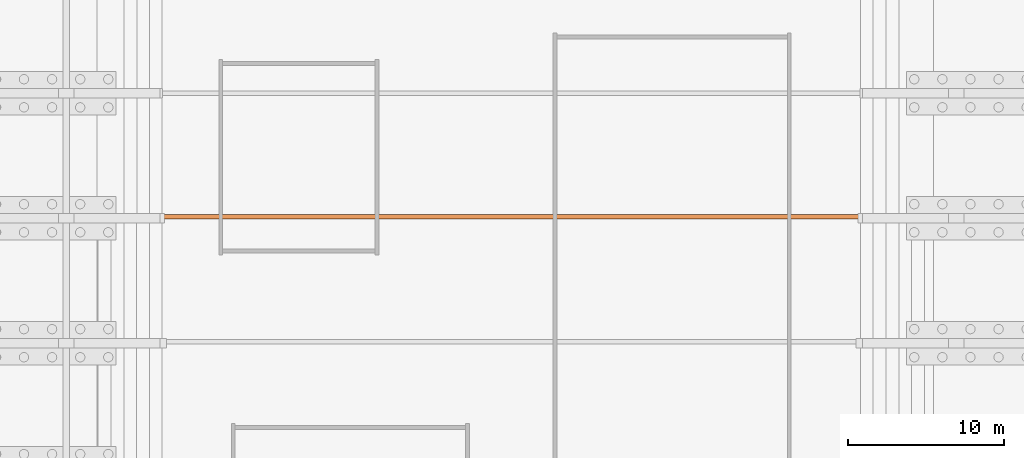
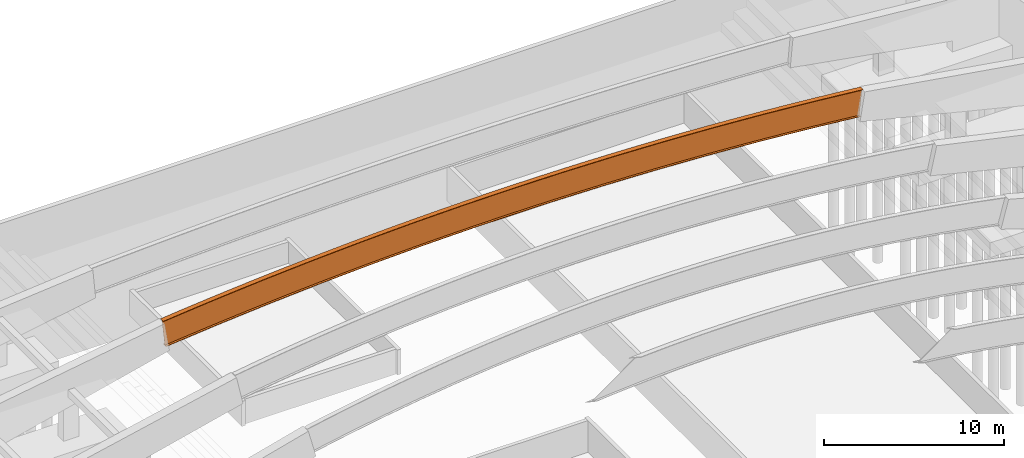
# One storey, part 9 of 10: 1 proxy.
"""IFC2X3 building model written with IfcOpenShell, lengths in millimetres."""

from ifc_helpers import new_model, si_unit, derived_unit, direction, frame, origin, place, context, subcontext, project, spatial, face_set, surface_model, source, transform, mapped, type_object, type_shapes, element, save


model = new_model("IFC2X3")

# Units and contexts
model_context = context("Model", 3, precision=0.01, world=origin(), true_north=direction((6.12303176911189e-17, 1.0)))
body_context = subcontext(model_context, "Body", "Model", "MODEL_VIEW")
ifc_project = project(units=[si_unit("LENGTHUNIT", "METRE", prefix="MILLI"), si_unit("AREAUNIT", "SQUARE_METRE"), si_unit("VOLUMEUNIT", "CUBIC_METRE"), si_unit("PLANEANGLEUNIT", "RADIAN"), si_unit("MASSUNIT", "GRAM", prefix="KILO"), derived_unit("MASSDENSITYUNIT", [(si_unit("MASSUNIT", "GRAM", prefix="KILO"), 1), (si_unit("LENGTHUNIT", "METRE"), -3)]), si_unit("TIMEUNIT", "SECOND"), si_unit("FREQUENCYUNIT", "HERTZ"), si_unit("THERMODYNAMICTEMPERATUREUNIT", "DEGREE_CELSIUS"), derived_unit("THERMALTRANSMITTANCEUNIT", [(si_unit("MASSUNIT", "GRAM", prefix="KILO"), 1), (si_unit("THERMODYNAMICTEMPERATUREUNIT", "KELVIN"), -1), (si_unit("TIMEUNIT", "SECOND"), -3)]), derived_unit("VOLUMETRICFLOWRATEUNIT", [(si_unit("LENGTHUNIT", "METRE"), 3), (si_unit("TIMEUNIT", "SECOND"), -1)]), si_unit("ELECTRICCURRENTUNIT", "AMPERE"), si_unit("ELECTRICVOLTAGEUNIT", "VOLT"), si_unit("POWERUNIT", "WATT"), si_unit("FORCEUNIT", "NEWTON", prefix="KILO"), si_unit("ILLUMINANCEUNIT", "LUX"), si_unit("LUMINOUSFLUXUNIT", "LUMEN"), si_unit("LUMINOUSINTENSITYUNIT", "CANDELA"), derived_unit("USERDEFINED", [(si_unit("MASSUNIT", "GRAM", prefix="KILO"), -1), (si_unit("LENGTHUNIT", "METRE"), -2), (si_unit("TIMEUNIT", "SECOND"), 3), (si_unit("LUMINOUSFLUXUNIT", "LUMEN"), 1)]), derived_unit("LINEARVELOCITYUNIT", [(si_unit("LENGTHUNIT", "METRE"), 1), (si_unit("TIMEUNIT", "SECOND"), -1)]), si_unit("PRESSUREUNIT", "PASCAL"), derived_unit("USERDEFINED", [(si_unit("LENGTHUNIT", "METRE"), -2), (si_unit("MASSUNIT", "GRAM", prefix="KILO"), 1), (si_unit("TIMEUNIT", "SECOND"), -2)])], contexts=[model_context])

# Site, building, storey
site_placement = place(None, origin())
site = spatial("IfcSite", under=ifc_project, at=site_placement, Name="Default", CompositionType="ELEMENT")
building_placement = place(site_placement, origin())
building = spatial("IfcBuilding", under=site, at=building_placement, CompositionType="ELEMENT")
storey_placement = place(building_placement, origin())
storey = spatial("IfcBuildingStorey", under=building, at=storey_placement, Name="Default", CompositionType="ELEMENT", Elevation=0.0)

# Proxy
building_element_proxy_type = type_object("IfcBuildingElementProxyType", Name="VIGA", PredefinedType="NOTDEFINED")
shared_shape = source(origin(), body_context, "Body", "SurfaceModel", [
    surface_model("IfcFaceBasedSurfaceModel", [(45000.0061273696, 0.0, 1790.29613184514), (44997.4137090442, 0.0, 1765.43090779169), (44997.4137090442, 140.0, 1765.43090779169), (44815.9444262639, 140.0, 24.8652240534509), (44815.9444262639, 0.0, 24.8652240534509), (44813.3520079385, 0.0, 0.0), (44813.3520079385, 300.0, 0.0), (44815.9444262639, 300.0, 24.8652240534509), (44815.9444262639, 160.0, 24.8652240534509), (44997.4137090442, 160.0, 1765.43090779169), (44997.4137090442, 300.0, 1765.43090779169), (45000.0061273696, 300.0, 1790.29613184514), (0.0, 0.0, 1790.29613184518), (0.0, 300.0, 1790.29613184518), (2.5924183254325, 300.0, 1765.43090779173), (2.5924183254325, 160.0, 1765.43090779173), (184.061701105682, 160.0, 24.8652240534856), (184.061701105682, 300.0, 24.8652240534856), (186.654119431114, 300.0, 0.0), (186.654119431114, 0.0, 0.0), (184.061701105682, 0.0, 24.8652240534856), (184.061701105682, 140.0, 24.8652240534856), (2.5924183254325, 140.0, 1765.43090779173), (2.5924183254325, 0.0, 1765.43090779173), (36979.5750216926, 0.00228845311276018, 2476.36894678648), (38585.607223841, 0.00228845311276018, 2362.96772913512), (38585.607223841, 300.002581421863, 2362.96772913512), (36979.5750216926, 300.002581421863, 2476.36894678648), (35372.7428683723, 0.00228845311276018, 2577.8496711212), (35372.7428683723, 300.002581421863, 2577.8496711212), (40190.7557589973, 0.00228845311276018, 2237.65270380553), (40190.7557589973, 300.002581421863, 2237.65270380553), (41794.9276095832, 0.00228845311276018, 2100.43055643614), (41794.9276095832, 300.002581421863, 2100.43055643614), (33765.1944797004, 0.00228845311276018, 2667.40496058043), (33765.1944797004, 300.002581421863, 2667.40496058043), (25719.9553195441, 0.00228845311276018, 2936.14437098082), (27329.7175265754, 0.00228845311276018, 2906.27875208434), (27329.7175265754, 300.002581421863, 2906.27875208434), (25719.9553195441, 300.002581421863, 2936.14437098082), (24110.0256808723, 0.00228845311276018, 2954.0642074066), (24110.0256808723, 300.002581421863, 2954.0642074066), (30548.3396701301, 0.00228845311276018, 2810.71888727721), (32157.0321750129, 0.00228845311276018, 2745.02929224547), (32157.0321750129, 300.002581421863, 2745.02929224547), (30548.3396701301, 300.002581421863, 2810.71888727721), (28939.2099826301, 0.00228845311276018, 2864.4696761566), (28939.2099826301, 300.002581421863, 2864.4696761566), (22500.0030246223, 0.00228845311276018, 2960.03768000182), (22500.0030246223, 300.002581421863, 2960.03768000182), (43398.0483615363, 300.002581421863, 1951.30913538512), (43398.0483615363, 0.00228845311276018, 1951.30913538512), (14451.6617282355, 0.00228845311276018, 2810.71888727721), (16060.8007174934, 0.00228845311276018, 2864.4696761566), (16060.8007174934, 300.002581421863, 2864.4696761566), (14451.6617282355, 300.002581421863, 2810.71888727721), (12842.9692233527, 0.00228845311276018, 2745.02929224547), (12842.9692233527, 300.002581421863, 2745.02929224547), (19280.0460788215, 0.00228845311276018, 2936.14437098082), (20889.9803683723, 0.00228845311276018, 2954.0642074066), (20889.9803683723, 300.002581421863, 2954.0642074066), (19280.0460788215, 300.002581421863, 2936.14437098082), (17670.2885226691, 0.00228845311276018, 2906.27875208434), (17670.2885226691, 300.002581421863, 2906.27875208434), (11234.8069186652, 0.00228845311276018, 2667.40496058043), (11234.8069186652, 300.002581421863, 2667.40496058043), (3205.07378878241, 0.00228845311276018, 2100.43055643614), (4809.25029024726, 0.00228845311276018, 2237.65270380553), (4809.25029024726, 300.002581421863, 2237.65270380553), (3205.07378878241, 300.002581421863, 2100.43055643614), (1601.9623385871, 0.00228845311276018, 1951.30913538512), (1601.9623385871, 300.002581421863, 1951.30913538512), (8020.43567843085, 0.00228845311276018, 2476.36894678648), (9627.26783175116, 0.00228845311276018, 2577.8496711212), (9627.26783175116, 300.002581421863, 2577.8496711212), (8020.43567843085, 300.002581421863, 2476.36894678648), (6414.3988254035, 0.00228845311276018, 2362.96772913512), (6414.3988254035, 300.002581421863, 2362.96772913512), (43395.6359545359, 300.0, 1926.42523133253), (41792.7076899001, 300.0, 2075.52964267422), (40188.7171721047, 300.0, 2212.73593215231), (38583.7527166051, 300.0, 2338.03654521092), (36977.9026924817, 300.0, 2451.42458281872), (35371.2555175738, 300.0, 2552.8938018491), (33763.8996536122, 300.0, 2642.43861542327), (32155.9236013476, 300.0, 2720.05409321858), (30547.4158956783, 300.0, 2785.73596173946), (28938.4651007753, 300.0, 2839.48060455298), (27329.1598052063, 300.0, 2881.28506248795), (25719.5886170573, 300.0, 2911.14703379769), (24109.8401590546, 300.0, 2929.064874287), (22500.0030636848, 300.0, 2935.03759740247), (20890.1659683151, 300.0, 2929.064874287), (19280.4175103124, 300.0, 2911.14703379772), (17670.8463221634, 300.0, 2881.28506248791), (16061.5410265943, 300.0, 2839.48060455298), (14452.5902316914, 300.0, 2785.73596173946), (12844.0825260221, 300.0, 2720.05409321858), (11236.1064737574, 300.0, 2642.4386154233), (9628.75060979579, 300.0, 2552.89380184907), (8022.10343488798, 300.0, 2451.42458281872), (6416.2534107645, 300.0, 2338.03654521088), (4811.28895526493, 300.0, 2212.73593215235), (3207.29843746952, 300.0, 2075.52964267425), (1604.37017283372, 300.0, 1926.42523133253), (38583.7561740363, 160.001824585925, 2338.03640207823), (41792.704489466, 160.001824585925, 2075.52975077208), (28938.4658420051, 160.001824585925, 2839.48050379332), (32155.9252658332, 160.001824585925, 2720.05407251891), (35371.2545871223, 160.001824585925, 2552.89392695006), (25719.5925509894, 160.001824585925, 2911.14705957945), (22500.0030246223, 160.001824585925, 2935.03746180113), (16061.5402072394, 160.001824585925, 2839.48050379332), (19280.418149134, 160.001824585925, 2911.14705957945), (12844.0807834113, 160.001824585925, 2720.05407251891), (3207.2969088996, 160.001824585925, 2075.52975077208), (6416.2545260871, 160.001824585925, 2338.03640207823), (9628.75146212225, 160.001824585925, 2552.89392695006), (1604.37017283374, 160.0, 1926.42523133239), (4811.28895526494, 160.0, 2212.73593215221), (8022.10343488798, 160.0, 2451.42458281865), (11236.1064737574, 160.0, 2642.43861542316), (14452.5902316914, 160.0, 2785.73596173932), (17670.8463221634, 160.0, 2881.28506248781), (20890.1659683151, 160.0, 2929.06487428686), (24109.8401590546, 160.0, 2929.0648742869), (27329.1598052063, 160.0, 2881.28506248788), (30547.4158956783, 160.0, 2785.73596173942), (33763.8996536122, 160.0, 2642.43861542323), (36977.9026924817, 160.0, 2451.42458281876), (40188.7171721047, 160.0, 2212.73593215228), (43395.6359545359, 160.0, 1926.42523133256), (43168.2179508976, 160.0, 190.249141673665), (41519.267630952, 160.0, 342.948913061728), (39869.1911071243, 160.0, 482.955496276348), (38218.0860867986, 160.0, 610.260600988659), (36566.05033826, 160.0, 724.856688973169), (34913.1816849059, 160.0, 826.736974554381), (33259.5779994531, 160.0, 915.895425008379), (31605.3371981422, 160.0, 992.326760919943), (29950.5572349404, 160.0, 1056.02645649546), (28295.3360957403, 160.0, 1106.99073983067), (26639.7717925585, 160.0, 1145.21659313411), (24983.9623577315, 160.0, 1170.70175290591), (23328.0058381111, 160.0, 1183.44471007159), (21672.0002892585, 160.0, 1183.44471007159), (20016.0437696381, 160.0, 1170.70175290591), (18360.2343348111, 160.0, 1145.21659313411), (16704.6700316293, 160.0, 1106.99073983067), (15049.4488924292, 160.0, 1056.02645649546), (13394.6689292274, 160.0, 992.326760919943), (11740.4281279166, 160.0, 915.895425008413), (10086.8244424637, 160.0, 826.736974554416), (8433.95578910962, 160.0, 724.856688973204), (6781.92004057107, 160.0, 610.260600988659), (5130.81502024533, 160.0, 482.955496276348), (3480.73849641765, 160.0, 342.948913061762), (1831.78817647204, 160.0, 190.24914167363), (39869.1939914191, 300.002581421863, 482.955520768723), (38218.0854709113, 300.002581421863, 610.260613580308), (36566.0467746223, 300.002581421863, 724.856671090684), (43168.2205295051, 300.002581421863, 190.249113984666), (41519.2700168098, 300.002581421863, 342.94887766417), (34913.1802218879, 300.002581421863, 826.736934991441), (26639.768942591, 300.002581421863, 1145.21662325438), (28295.333005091, 300.002581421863, 1106.99075884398), (24983.9630343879, 300.002581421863, 1170.70169558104), (31605.3356173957, 300.002581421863, 992.326827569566), (33259.5788302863, 300.002581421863, 915.89544634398), (29950.5529025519, 300.002581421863, 1056.02642778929), (23328.0082980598, 300.002581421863, 1183.44466776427), (21671.9977511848, 300.002581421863, 1183.44466776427), (15049.4484958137, 300.002581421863, 1056.02642778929), (16704.6683932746, 300.002581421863, 1106.99075884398), (13394.6704318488, 300.002581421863, 992.326827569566), (20016.0430148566, 300.002581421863, 1170.70169558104), (18360.2324557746, 300.002581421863, 1145.21662325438), (11740.4272189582, 300.002581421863, 915.89544634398), (5130.81670870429, 300.002581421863, 482.955520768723), (3480.74068331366, 300.002581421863, 342.94887766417), (1831.79017061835, 300.002581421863, 190.249113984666), (10086.8258273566, 300.002581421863, 826.736934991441), (8433.95462374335, 300.002581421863, 724.856671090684), (6781.92057833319, 300.002581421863, 610.260613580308), (43165.8169471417, 300.0, 165.364705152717), (41517.0581839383, 300.0, 318.046737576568), (39867.1733476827, 300.0, 458.037056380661), (38216.2601344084, 300.0, 585.327372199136), (36564.4163010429, 300.0, 699.910147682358), (34911.7396596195, 300.0, 801.778597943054), (33258.3280714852, 300.0, 890.926690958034), (31604.279441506, 300.0, 967.349147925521), (29949.6917122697, 300.0, 1031.04144357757), (28294.662858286, 300.0, 1081.99980644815), (26639.2908801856, 300.0, 1120.22121909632), (24983.6737989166, 300.0, 1145.70341828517), (23327.9096499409, 300.0, 1158.44489511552), (21672.0964774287, 300.0, 1158.44489511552), (20016.332328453, 300.0, 1145.70341828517), (18360.7152471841, 300.0, 1120.22121909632), (16705.3432690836, 300.0, 1081.99980644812), (15050.3144151, 300.0, 1031.04144357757), (13395.7266858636, 300.0, 967.349147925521), (11741.6780558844, 300.0, 890.926690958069), (10088.2664677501, 300.0, 801.778597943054), (8435.58982632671, 300.0, 699.910147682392), (6783.74599296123, 300.0, 585.327372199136), (5132.83277968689, 300.0, 458.037056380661), (3482.94794343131, 300.0, 318.046737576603), (1834.18918022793, 300.0, 165.364705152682), (22500.0030246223, 300.002581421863, 1145.70336679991), (24983.6746798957, 0.00228845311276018, 1145.70336679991), (22500.0030246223, 0.00228845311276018, 1145.70336679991), (41517.0561984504, 0.00228845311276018, 318.046763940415), (38216.2623263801, 0.00228845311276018, 585.327397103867), (28294.6632785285, 0.00228845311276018, 1081.99984240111), (31604.2752170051, 0.00228845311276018, 967.349137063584), (34911.7384494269, 0.00228845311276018, 801.778574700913), (16705.342770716, 0.00228845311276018, 1081.99984240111), (20016.3313693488, 0.00228845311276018, 1145.70336679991), (13395.7261813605, 0.00228845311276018, 967.349137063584), (6783.74372286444, 0.00228845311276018, 585.327397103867), (3482.94985079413, 0.00228845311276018, 318.046763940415), (10088.2675998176, 0.00228845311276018, 801.778574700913), (1834.18918022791, 0.0, 165.364705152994), (5132.83277968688, 0.0, 458.037056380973), (8435.5898263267, 0.0, 699.910147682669), (11741.6780558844, 0.0, 890.926690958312), (15050.3144151, 0.0, 1031.04144357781), (18360.7152471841, 0.0, 1120.22121909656), (21672.0964774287, 0.0, 1158.44489511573), (23327.9096499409, 0.0, 1158.44489511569), (26639.2908801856, 0.0, 1120.22121909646), (29949.6917122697, 0.0, 1031.04144357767), (33258.3280714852, 0.0, 890.926690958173), (36564.4163010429, 0.0, 699.910147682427), (39867.1733476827, 0.0, 458.037056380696), (43165.8169471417, 0.0, 165.364705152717), (43168.2179508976, 0.0, 190.249141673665), (41519.267630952, 0.0, 342.948913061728), (39869.1911071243, 0.0, 482.955496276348), (38218.0860867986, 0.0, 610.260600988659), (36566.05033826, 0.0, 724.856688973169), (34913.1816849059, 0.0, 826.736974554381), (33259.5779994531, 0.0, 915.895425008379), (31605.3371981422, 0.0, 992.326760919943), (29950.5572349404, 0.0, 1056.02645649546), (28295.3360957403, 0.0, 1106.99073983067), (26639.7717925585, 0.0, 1145.21659313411), (24983.9623577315, 0.0, 1170.70175290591), (23328.0058381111, 0.0, 1183.44471007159), (21672.0002892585, 0.0, 1183.44471007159), (20016.0437696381, 0.0, 1170.70175290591), (18360.2343348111, 0.0, 1145.21659313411), (16704.6700316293, 0.0, 1106.99073983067), (15049.4488924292, 0.0, 1056.02645649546), (13394.6689292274, 0.0, 992.326760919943), (11740.4281279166, 0.0, 915.895425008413), (10086.8244424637, 0.0, 826.736974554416), (8433.95578910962, 0.0, 724.856688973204), (6781.92004057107, 0.0, 610.260600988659), (5130.81502024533, 0.0, 482.955496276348), (3480.73849641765, 0.0, 342.948913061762), (1831.78817647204, 0.0, 190.24914167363), (39869.1939914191, 140.00304528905, 482.955520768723), (38218.0854709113, 140.00304528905, 610.260613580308), (36566.0467746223, 140.00304528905, 724.856671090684), (43168.2205295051, 140.00304528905, 190.249113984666), (41519.2700168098, 140.00304528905, 342.94887766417), (34913.1802218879, 140.00304528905, 826.736934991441), (26639.768942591, 140.00304528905, 1145.21662325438), (28295.333005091, 140.00304528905, 1106.99075884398), (24983.9630343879, 140.00304528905, 1170.70169558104), (31605.3356173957, 140.00304528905, 992.326827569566), (33259.5788302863, 140.00304528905, 915.89544634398), (29950.5529025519, 140.00304528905, 1056.02642778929), (23328.0082980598, 140.00304528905, 1183.44466776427), (21671.9977511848, 140.00304528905, 1183.44466776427), (15049.4484958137, 140.00304528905, 1056.02642778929), (16704.6683932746, 140.00304528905, 1106.99075884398), (13394.6704318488, 140.00304528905, 992.326827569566), (20016.0430148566, 140.00304528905, 1170.70169558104), (18360.2324557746, 140.00304528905, 1145.21662325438), (11740.4272189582, 140.00304528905, 915.89544634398), (5130.81670870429, 140.00304528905, 482.955520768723), (3480.74068331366, 140.00304528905, 342.94887766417), (1831.79017061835, 140.00304528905, 190.249113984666), (10086.8258273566, 140.00304528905, 826.736934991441), (8433.95462374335, 140.00304528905, 724.856671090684), (6781.92057833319, 140.00304528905, 610.260613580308), (43395.6359545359, 140.0, 1926.42523133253), (41792.7076899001, 140.0, 2075.52964267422), (40188.7171721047, 140.0, 2212.73593215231), (38583.7527166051, 140.0, 2338.03654521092), (36977.9026924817, 140.0, 2451.42458281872), (35371.2555175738, 140.0, 2552.8938018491), (33763.8996536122, 140.0, 2642.43861542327), (32155.9236013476, 140.0, 2720.05409321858), (30547.4158956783, 140.0, 2785.73596173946), (28938.4651007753, 140.0, 2839.48060455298), (27329.1598052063, 140.0, 2881.28506248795), (25719.5886170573, 140.0, 2911.14703379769), (24109.8401590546, 140.0, 2929.064874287), (22500.0030636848, 140.0, 2935.03759740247), (20890.1659683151, 140.0, 2929.064874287), (19280.4175103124, 140.0, 2911.14703379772), (17670.8463221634, 140.0, 2881.28506248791), (16061.5410265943, 140.0, 2839.48060455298), (14452.5902316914, 140.0, 2785.73596173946), (12844.0825260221, 140.0, 2720.05409321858), (11236.1064737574, 140.0, 2642.4386154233), (9628.75060979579, 140.0, 2552.89380184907), (8022.10343488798, 140.0, 2451.42458281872), (6416.2534107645, 140.0, 2338.03654521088), (4811.28895526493, 140.0, 2212.73593215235), (3207.29843746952, 140.0, 2075.52964267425), (1604.37017283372, 140.0, 1926.42523133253), (41792.704489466, 0.00228845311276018, 2075.52975077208), (38583.7561740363, 0.00228845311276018, 2338.03640207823), (35371.2545871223, 0.00228845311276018, 2552.89392695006), (28938.4658420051, 0.00228845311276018, 2839.48050379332), (25719.5925509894, 0.00228845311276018, 2911.14705957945), (32155.9252658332, 0.00228845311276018, 2720.05407251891), (22500.0030246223, 0.00228845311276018, 2935.03746180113), (19280.418149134, 0.00228845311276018, 2911.14705957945), (16061.5402072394, 0.00228845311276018, 2839.48050379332), (12844.0807834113, 0.00228845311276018, 2720.05407251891), (6416.2545260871, 0.00228845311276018, 2338.03640207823), (3207.2969088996, 0.00228845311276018, 2075.52975077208), (9628.75146212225, 0.00228845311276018, 2552.89392695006), (1604.37017283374, 0.0, 1926.42523133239), (4811.28895526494, 0.0, 2212.73593215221), (8022.10343488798, 0.0, 2451.42458281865), (11236.1064737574, 0.0, 2642.43861542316), (14452.5902316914, 0.0, 2785.73596173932), (17670.8463221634, 0.0, 2881.28506248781), (20890.1659683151, 0.0, 2929.06487428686), (24109.8401590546, 0.0, 2929.0648742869), (27329.1598052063, 0.0, 2881.28506248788), (30547.4158956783, 0.0, 2785.73596173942), (33763.8996536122, 0.0, 2642.43861542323), (36977.9026924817, 0.0, 2451.42458281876), (40188.7171721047, 0.0, 2212.73593215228), (43395.6359545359, 0.0, 1926.42523133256)], [face_set([[[0, 1, 2, 3, 4, 5, 6, 7, 8, 9, 10, 11]], [[12, 13, 14, 15, 16, 17, 18, 19, 20, 21, 22, 23]], [[24, 25, 26, 27]], [[28, 24, 27, 29]], [[25, 30, 31, 26]], [[30, 32, 33, 31]], [[34, 28, 29, 35]], [[36, 37, 38, 39]], [[40, 36, 39, 41]], [[42, 43, 44, 45]], [[46, 42, 45, 47]], [[37, 46, 47, 38]], [[43, 34, 35, 44]], [[48, 40, 41, 49]], [[11, 50, 51, 0]], [[32, 51, 50, 33]], [[52, 53, 54, 55]], [[56, 52, 55, 57]], [[58, 59, 60, 61]], [[62, 58, 61, 63]], [[53, 62, 63, 54]], [[64, 56, 57, 65]], [[66, 67, 68, 69]], [[70, 66, 69, 71]], [[72, 73, 74, 75]], [[76, 72, 75, 77]], [[67, 76, 77, 68]], [[73, 64, 65, 74]], [[12, 70, 71, 13]], [[49, 60, 59, 48]], [[14, 13, 71, 69, 68, 77, 75, 74, 65, 57, 55, 54, 63, 61, 60, 49, 41, 39, 38, 47, 45, 44, 35, 29, 27, 26, 31, 33, 50, 11, 10, 78, 79, 80, 81, 82, 83, 84, 85, 86, 87, 88, 89, 90, 91, 92, 93, 94, 95, 96, 97, 98, 99, 100, 101, 102, 103, 104]], [[79, 81, 105, 106]], [[9, 10, 79, 106]], [[85, 87, 107, 108]], [[83, 85, 108, 109]], [[81, 83, 109, 105]], [[87, 89, 110, 107]], [[111, 110, 89, 91]], [[93, 95, 112, 113]], [[95, 97, 114, 112]], [[101, 103, 115, 116]], [[99, 101, 116, 117]], [[97, 99, 117, 114]], [[103, 14, 15, 115]], [[113, 111, 91, 93]], [[16, 15, 118, 115, 119, 116, 120, 117, 121, 114, 122, 112, 123, 113, 124, 111, 125, 110, 126, 107, 127, 108, 128, 109, 129, 105, 130, 106, 131, 9, 8, 132, 133, 134, 135, 136, 137, 138, 139, 140, 141, 142, 143, 144, 145, 146, 147, 148, 149, 150, 151, 152, 153, 154, 155, 156, 157]], [[135, 134, 158, 159]], [[136, 135, 159, 160]], [[132, 8, 7, 161]], [[133, 132, 161, 162]], [[134, 133, 162, 158]], [[137, 136, 160, 163]], [[164, 165, 141, 142]], [[166, 164, 142, 143]], [[167, 168, 138, 139]], [[169, 167, 139, 140]], [[165, 169, 140, 141]], [[138, 137, 163, 168]], [[170, 166, 143, 144]], [[171, 170, 144, 145]], [[172, 173, 148, 149]], [[174, 172, 149, 150]], [[175, 171, 145, 146]], [[176, 175, 146, 147]], [[173, 176, 147, 148]], [[177, 174, 150, 151]], [[156, 155, 178, 179]], [[157, 156, 179, 180]], [[153, 152, 181, 182]], [[154, 153, 182, 183]], [[155, 154, 183, 178]], [[152, 151, 177, 181]], [[16, 157, 180, 17]], [[18, 17, 180, 179, 178, 183, 182, 181, 177, 174, 172, 173, 176, 175, 171, 170, 166, 164, 165, 169, 167, 168, 163, 160, 159, 158, 162, 161, 7, 6, 184, 185, 186, 187, 188, 189, 190, 191, 192, 193, 194, 195, 196, 197, 198, 199, 200, 201, 202, 203, 204, 205, 206, 207, 208, 209]], [[198, 210, 211, 212]], [[213, 185, 187, 214]], [[6, 185, 213, 5]], [[215, 193, 191, 216]], [[216, 191, 189, 217]], [[214, 187, 189, 217]], [[211, 195, 193, 215]], [[210, 195, 211]], [[218, 200, 198, 219]], [[220, 202, 200, 218]], [[221, 206, 208, 222]], [[223, 204, 206, 221]], [[223, 204, 202, 220]], [[222, 208, 18, 19]], [[212, 219, 198]], [[20, 19, 224, 222, 225, 221, 226, 223, 227, 220, 228, 218, 229, 219, 230, 231, 211, 232, 215, 233, 216, 234, 217, 235, 214, 236, 213, 237, 5, 4, 238, 239, 240, 241, 242, 243, 244, 245, 246, 247, 248, 249, 250, 251, 252, 253, 254, 255, 256, 257, 258, 259, 260, 261, 262, 263]], [[240, 264, 265, 241]], [[241, 265, 266, 242]], [[4, 3, 267, 238]], [[238, 267, 268, 239]], [[239, 268, 264, 240]], [[242, 266, 269, 243]], [[248, 270, 271, 247]], [[249, 272, 270, 248]], [[245, 273, 274, 244]], [[246, 275, 273, 245]], [[247, 271, 275, 246]], [[243, 269, 274, 244]], [[250, 276, 272, 249]], [[276, 250, 251, 277]], [[255, 278, 279, 254]], [[256, 280, 278, 255]], [[252, 281, 277, 251]], [[253, 282, 281, 252]], [[254, 279, 282, 253]], [[257, 283, 280, 256]], [[261, 284, 285, 262]], [[262, 285, 286, 263]], [[258, 287, 288, 259]], [[259, 288, 289, 260]], [[260, 289, 284, 261]], [[257, 283, 287, 258]], [[263, 286, 21, 20]], [[22, 21, 286, 285, 284, 289, 288, 287, 283, 280, 278, 279, 282, 281, 277, 276, 272, 270, 271, 275, 273, 274, 269, 266, 265, 264, 268, 267, 3, 2, 290, 291, 292, 293, 294, 295, 296, 297, 298, 299, 300, 301, 302, 303, 304, 305, 306, 307, 308, 309, 310, 311, 312, 313, 314, 315, 316]], [[317, 291, 293, 318]], [[318, 293, 295, 319]], [[320, 299, 301, 321]], [[322, 297, 299, 320]], [[319, 295, 297, 322]], [[321, 301, 303, 323]], [[317, 1, 2, 291]], [[324, 305, 307, 325]], [[325, 307, 309, 326]], [[327, 313, 315, 328]], [[329, 311, 313, 327]], [[326, 309, 311, 329]], [[328, 315, 22, 23]], [[305, 324, 323, 303]], [[12, 23, 330, 328, 331, 327, 332, 329, 333, 326, 334, 325, 335, 324, 336, 323, 337, 321, 338, 320, 339, 322, 340, 319, 341, 318, 342, 317, 343, 1, 0, 51, 32, 30, 25, 24, 28, 34, 43, 42, 46, 37, 36, 40, 48, 59, 58, 62, 53, 52, 56, 64, 73, 72, 76, 67, 66, 70]]])]),
])
type_shapes(building_element_proxy_type, [shared_shape])
proxy_placement = place(building_placement, frame((58555.294273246, 114744.143733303, 632.580821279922)))
element("IfcBuildingElementProxy", 1, at=proxy_placement, inside=storey, type_object=building_element_proxy_type, Name="VIGA 189:VIGA 189", ObjectType="VIGA 189:VIGA 189", context=body_context, shape_type="MappedRepresentation", body=[
    mapped(shared_shape, transform((0.0, 0.0, 0.0), scale=1.0)),
])

save(model, "model.ifc")
